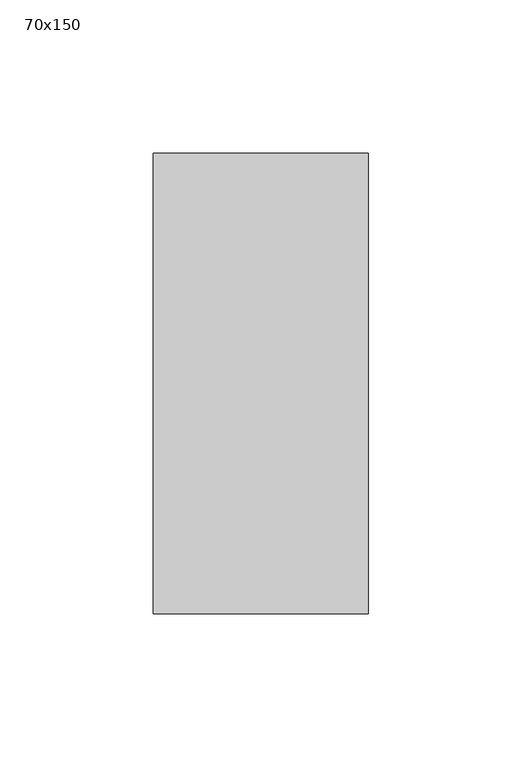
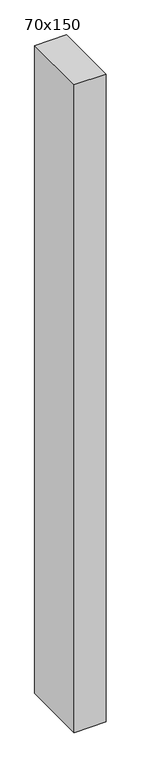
"""IFC4 building model written with IfcOpenShell, lengths in millimetres: member geometry, 長方形のマリオン : 70x150."""

from ifc_helpers import new_model, si_unit, frame, origin, place, context, project, spatial, polyline, outline, extrude, source, transform, mapped, element, save


def member_70x150_f8cbd96f(model_context):
    return source(origin(), model_context, "Body", "SweptSolid", [
        extrude(outline(polyline([(35.0, 75.0), (35.0, -75.0), (-35.0, -75.0), (-35.0, 75.0), (35.0, 75.0)])), frame((0.0, 0.0, -1500.0), z_axis=(0.0, 0.0, 1.0), x_axis=(1.0, 0.0, 0.0)), (0.0, 0.0, 1.0), 1500.0),
    ])


if __name__ == "__main__":
    model = new_model("IFC4")
    model_context = context("Model", 3, world=origin())
    ifc_project = project(units=[si_unit("LENGTHUNIT", "METRE", prefix="MILLI")], contexts=[model_context])
    site = spatial("IfcSite", under=ifc_project)
    building = spatial("IfcBuilding", under=site)
    placement = place(None, origin())
    member_70x150_shape = member_70x150_f8cbd96f(model_context)
    element("IfcMember", 1, ObjectType="長方形のマリオン : 70x150", at=placement, inside=building, context=model_context, shape_type="MappedRepresentation", body=[
        mapped(member_70x150_shape, transform((0.0, 0.0, 0.0), x_axis=(1.0, 0.0, 0.0), y_axis=(0.0, 1.0, 0.0), z_axis=(0.0, 0.0, 1.0))),
    ])
    save(model, "model.ifc")
